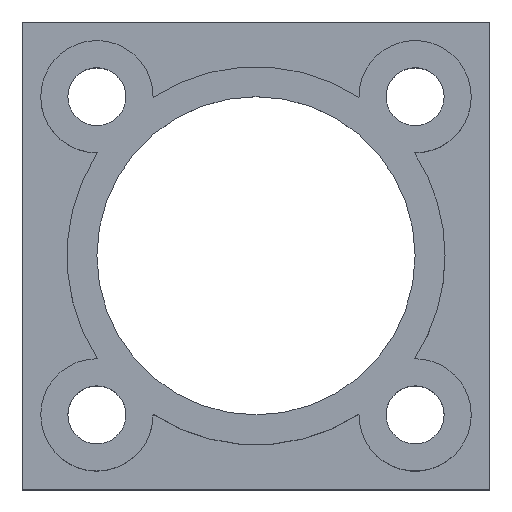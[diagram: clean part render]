
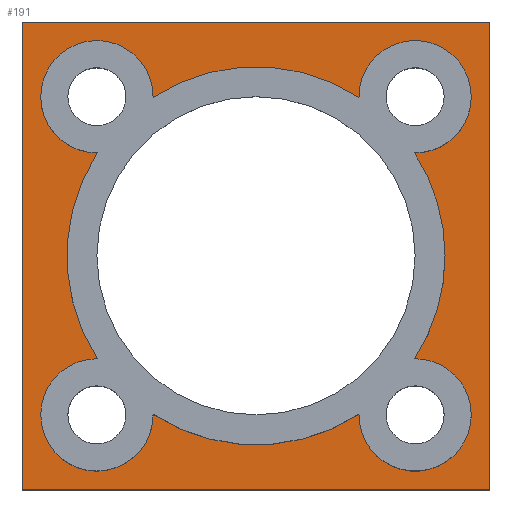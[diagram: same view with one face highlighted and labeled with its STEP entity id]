
A CAD part, top view. The second image highlights one B-rep face of the part: STEP entity #191.
In plain terms, the highlighted planar face has unit normal (0, 0, 1).
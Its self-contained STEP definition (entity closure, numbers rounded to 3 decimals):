
#24 = VERTEX_POINT('',#25);
#25 = CARTESIAN_POINT('',(-12.5,-12.5,2.));
#31 = EDGE_CURVE('',#24,#32,#34,.T.);
#32 = VERTEX_POINT('',#33);
#33 = CARTESIAN_POINT('',(12.5,-12.5,2.));
#34 = LINE('',#35,#36);
#35 = CARTESIAN_POINT('',(-12.5,-12.5,2.));
#36 = VECTOR('',#37,1.);
#37 = DIRECTION('',(1.,0.,0.));
#64 = VERTEX_POINT('',#65);
#65 = CARTESIAN_POINT('',(-12.5,12.5,2.));
#71 = EDGE_CURVE('',#64,#24,#72,.T.);
#72 = LINE('',#73,#74);
#73 = CARTESIAN_POINT('',(-12.5,12.5,2.));
#74 = VECTOR('',#75,1.);
#75 = DIRECTION('',(0.,-1.,0.));
#93 = EDGE_CURVE('',#32,#94,#96,.T.);
#94 = VERTEX_POINT('',#95);
#95 = CARTESIAN_POINT('',(12.5,12.5,2.));
#96 = LINE('',#97,#98);
#97 = CARTESIAN_POINT('',(12.5,-12.5,2.));
#98 = VECTOR('',#99,1.);
#99 = DIRECTION('',(0.,1.,0.));
#191 = ADVANCED_FACE('',(#192,#203),#322,.T.);
#192 = FACE_BOUND('',#193,.T.);
#193 = EDGE_LOOP('',(#194,#195,#196,#202));
#194 = ORIENTED_EDGE('',*,*,#31,.T.);
#195 = ORIENTED_EDGE('',*,*,#93,.T.);
#196 = ORIENTED_EDGE('',*,*,#197,.T.);
#197 = EDGE_CURVE('',#94,#64,#198,.T.);
#198 = LINE('',#199,#200);
#199 = CARTESIAN_POINT('',(12.5,12.5,2.));
#200 = VECTOR('',#201,1.);
#201 = DIRECTION('',(-1.,0.,0.));
#202 = ORIENTED_EDGE('',*,*,#71,.T.);
#203 = FACE_BOUND('',#204,.T.);
#204 = EDGE_LOOP('',(#205,#216,#225,#234,#243,#252,#261,#270,#279,#288,
    #297,#306,#315));
#205 = ORIENTED_EDGE('',*,*,#206,.F.);
#206 = EDGE_CURVE('',#207,#209,#211,.T.);
#207 = VERTEX_POINT('',#208);
#208 = CARTESIAN_POINT('',(10.1,0.,2.));
#209 = VERTEX_POINT('',#210);
#210 = CARTESIAN_POINT('',(8.471,5.5,2.));
#211 = CIRCLE('',#212,10.1);
#212 = AXIS2_PLACEMENT_3D('',#213,#214,#215);
#213 = CARTESIAN_POINT('',(0.,0.,2.));
#214 = DIRECTION('',(0.,0.,1.));
#215 = DIRECTION('',(1.,0.,0.));
#216 = ORIENTED_EDGE('',*,*,#217,.F.);
#217 = EDGE_CURVE('',#218,#207,#220,.T.);
#218 = VERTEX_POINT('',#219);
#219 = CARTESIAN_POINT('',(8.471,-5.5,2.));
#220 = CIRCLE('',#221,10.1);
#221 = AXIS2_PLACEMENT_3D('',#222,#223,#224);
#222 = CARTESIAN_POINT('',(0.,0.,2.));
#223 = DIRECTION('',(0.,0.,1.));
#224 = DIRECTION('',(1.,0.,0.));
#225 = ORIENTED_EDGE('',*,*,#226,.F.);
#226 = EDGE_CURVE('',#227,#218,#229,.T.);
#227 = VERTEX_POINT('',#228);
#228 = CARTESIAN_POINT('',(11.5,-8.5,2.));
#229 = CIRCLE('',#230,3.);
#230 = AXIS2_PLACEMENT_3D('',#231,#232,#233);
#231 = CARTESIAN_POINT('',(8.5,-8.5,2.));
#232 = DIRECTION('',(0.,0.,1.));
#233 = DIRECTION('',(1.,0.,0.));
#234 = ORIENTED_EDGE('',*,*,#235,.F.);
#235 = EDGE_CURVE('',#236,#227,#238,.T.);
#236 = VERTEX_POINT('',#237);
#237 = CARTESIAN_POINT('',(5.5,-8.471,2.));
#238 = CIRCLE('',#239,3.);
#239 = AXIS2_PLACEMENT_3D('',#240,#241,#242);
#240 = CARTESIAN_POINT('',(8.5,-8.5,2.));
#241 = DIRECTION('',(0.,0.,1.));
#242 = DIRECTION('',(1.,0.,0.));
#243 = ORIENTED_EDGE('',*,*,#244,.F.);
#244 = EDGE_CURVE('',#245,#236,#247,.T.);
#245 = VERTEX_POINT('',#246);
#246 = CARTESIAN_POINT('',(-5.5,-8.471,2.));
#247 = CIRCLE('',#248,10.1);
#248 = AXIS2_PLACEMENT_3D('',#249,#250,#251);
#249 = CARTESIAN_POINT('',(0.,0.,2.));
#250 = DIRECTION('',(0.,0.,1.));
#251 = DIRECTION('',(1.,0.,0.));
#252 = ORIENTED_EDGE('',*,*,#253,.F.);
#253 = EDGE_CURVE('',#254,#245,#256,.T.);
#254 = VERTEX_POINT('',#255);
#255 = CARTESIAN_POINT('',(-5.5,-8.5,2.));
#256 = CIRCLE('',#257,3.);
#257 = AXIS2_PLACEMENT_3D('',#258,#259,#260);
#258 = CARTESIAN_POINT('',(-8.5,-8.5,2.));
#259 = DIRECTION('',(0.,0.,1.));
#260 = DIRECTION('',(1.,0.,0.));
#261 = ORIENTED_EDGE('',*,*,#262,.F.);
#262 = EDGE_CURVE('',#263,#254,#265,.T.);
#263 = VERTEX_POINT('',#264);
#264 = CARTESIAN_POINT('',(-8.471,-5.5,2.));
#265 = CIRCLE('',#266,3.);
#266 = AXIS2_PLACEMENT_3D('',#267,#268,#269);
#267 = CARTESIAN_POINT('',(-8.5,-8.5,2.));
#268 = DIRECTION('',(0.,0.,1.));
#269 = DIRECTION('',(1.,0.,0.));
#270 = ORIENTED_EDGE('',*,*,#271,.F.);
#271 = EDGE_CURVE('',#272,#263,#274,.T.);
#272 = VERTEX_POINT('',#273);
#273 = CARTESIAN_POINT('',(-8.471,5.5,2.));
#274 = CIRCLE('',#275,10.1);
#275 = AXIS2_PLACEMENT_3D('',#276,#277,#278);
#276 = CARTESIAN_POINT('',(0.,0.,2.));
#277 = DIRECTION('',(0.,0.,1.));
#278 = DIRECTION('',(1.,0.,0.));
#279 = ORIENTED_EDGE('',*,*,#280,.F.);
#280 = EDGE_CURVE('',#281,#272,#283,.T.);
#281 = VERTEX_POINT('',#282);
#282 = CARTESIAN_POINT('',(-5.5,8.5,2.));
#283 = CIRCLE('',#284,3.);
#284 = AXIS2_PLACEMENT_3D('',#285,#286,#287);
#285 = CARTESIAN_POINT('',(-8.5,8.5,2.));
#286 = DIRECTION('',(0.,0.,1.));
#287 = DIRECTION('',(1.,0.,0.));
#288 = ORIENTED_EDGE('',*,*,#289,.F.);
#289 = EDGE_CURVE('',#290,#281,#292,.T.);
#290 = VERTEX_POINT('',#291);
#291 = CARTESIAN_POINT('',(-5.5,8.471,2.));
#292 = CIRCLE('',#293,3.);
#293 = AXIS2_PLACEMENT_3D('',#294,#295,#296);
#294 = CARTESIAN_POINT('',(-8.5,8.5,2.));
#295 = DIRECTION('',(0.,0.,1.));
#296 = DIRECTION('',(1.,0.,0.));
#297 = ORIENTED_EDGE('',*,*,#298,.F.);
#298 = EDGE_CURVE('',#299,#290,#301,.T.);
#299 = VERTEX_POINT('',#300);
#300 = CARTESIAN_POINT('',(5.5,8.471,2.));
#301 = CIRCLE('',#302,10.1);
#302 = AXIS2_PLACEMENT_3D('',#303,#304,#305);
#303 = CARTESIAN_POINT('',(0.,0.,2.));
#304 = DIRECTION('',(0.,0.,1.));
#305 = DIRECTION('',(1.,0.,0.));
#306 = ORIENTED_EDGE('',*,*,#307,.F.);
#307 = EDGE_CURVE('',#308,#299,#310,.T.);
#308 = VERTEX_POINT('',#309);
#309 = CARTESIAN_POINT('',(11.5,8.5,2.));
#310 = CIRCLE('',#311,3.);
#311 = AXIS2_PLACEMENT_3D('',#312,#313,#314);
#312 = CARTESIAN_POINT('',(8.5,8.5,2.));
#313 = DIRECTION('',(0.,0.,1.));
#314 = DIRECTION('',(1.,0.,0.));
#315 = ORIENTED_EDGE('',*,*,#316,.F.);
#316 = EDGE_CURVE('',#209,#308,#317,.T.);
#317 = CIRCLE('',#318,3.);
#318 = AXIS2_PLACEMENT_3D('',#319,#320,#321);
#319 = CARTESIAN_POINT('',(8.5,8.5,2.));
#320 = DIRECTION('',(0.,0.,1.));
#321 = DIRECTION('',(1.,0.,0.));
#322 = PLANE('',#323);
#323 = AXIS2_PLACEMENT_3D('',#324,#325,#326);
#324 = CARTESIAN_POINT('',(0.,0.,2.));
#325 = DIRECTION('',(0.,0.,1.));
#326 = DIRECTION('',(1.,0.,0.));
